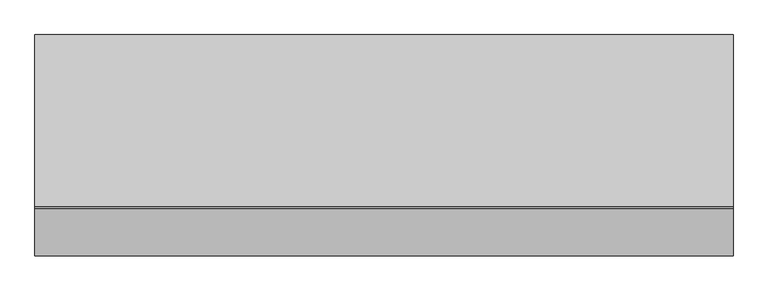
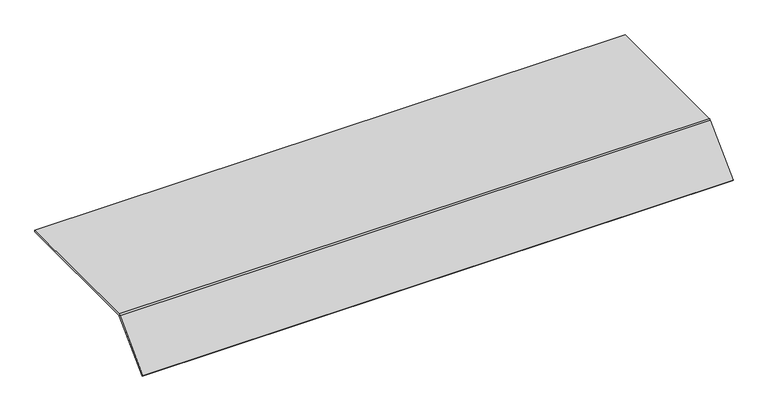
"""IFC4 building model written with IfcOpenShell, lengths in millimetres: proxy geometry, Electrical_Installation_Hager_Blank-Cover-800mm-Single-Sided-Height-70mm : Electrical_Installation_Hager_Blank-Cover-800mm-Single-Sided-Height-70mm."""

from ifc_helpers import new_model, si_unit, point, frame, frame_2d, origin, place, context, project, spatial, polyline, circle_curve, trimmed, segment, composite_curve, outline, extrude, source, transform, mapped, element, save


def electrical_fixtures_7eaf1fa6(model_context):
    return source(origin(), model_context, "Body", "SweptSolid", [
        extrude(outline(composite_curve([segment(polyline([(125.0, 40.5), (125.0, 37.5), (-124.8229541, 37.5)]), True, "CONTINUOUS"), segment(trimmed(circle_curve(frame_2d((-124.8229541, 36.0725733)), 1.4274267), [point((-124.8229541, 37.5))], [point((-125.8322972, 37.0819164))], True, "CARTESIAN"), True, "CONTINUOUS"), segment(polyline([(-125.8322972, 37.0819164), (-193.6627596, -30.7485461), (-195.78408, -28.6272257), (-127.8206472, 39.336207)]), True, "CONTINUOUS"), segment(trimmed(circle_curve(frame_2d((-125.0110025, 36.5265623)), 3.9734377), [point((-127.8206472, 39.336207))], [point((-125.0110025, 40.5))], False, "CARTESIAN"), True, "CONTINUOUS"), segment(polyline([(-125.0110025, 40.5), (125.0, 40.5)]), True, "CONTINUOUS")], self_intersect=False)), frame((0.0, 0.0, 0.0), z_axis=(1.0, 0.0, 0.0), x_axis=(0.0, 1.0, 0.0)), (0.0, 0.0, 1.0), 1011.6956759),
    ])


if __name__ == "__main__":
    model = new_model("IFC4")
    model_context = context("Model", 3, world=origin())
    ifc_project = project(units=[si_unit("LENGTHUNIT", "METRE", prefix="MILLI")], contexts=[model_context])
    site = spatial("IfcSite", under=ifc_project)
    building = spatial("IfcBuilding", under=site)
    placement = place(None, origin())
    electrical_fixtures_shape = electrical_fixtures_7eaf1fa6(model_context)
    element("IfcBuildingElementProxy", 1, Name="Electrical_Installation_Hager_Blank-Cover-800mm-Single-Sided-Height-70mm : Electrical_Installation_Hager_Blank-Cover-800mm-Single-Sided-Height-70mm", ObjectType="Electrical_Installation_Hager_Blank-Cover-800mm-Single-Sided-Height-70mm : Electrical_Installation_Hager_Blank-Cover-800mm-Single-Sided-Height-70mm", at=placement, inside=building, context=model_context, shape_type="MappedRepresentation", body=[
        mapped(electrical_fixtures_shape, transform((0.0, 0.0, 0.0), x_axis=(1.0, 0.0, 0.0), y_axis=(0.0, 1.0, 0.0), z_axis=(0.0, 0.0, 1.0))),
    ])
    save(model, "model.ifc")
